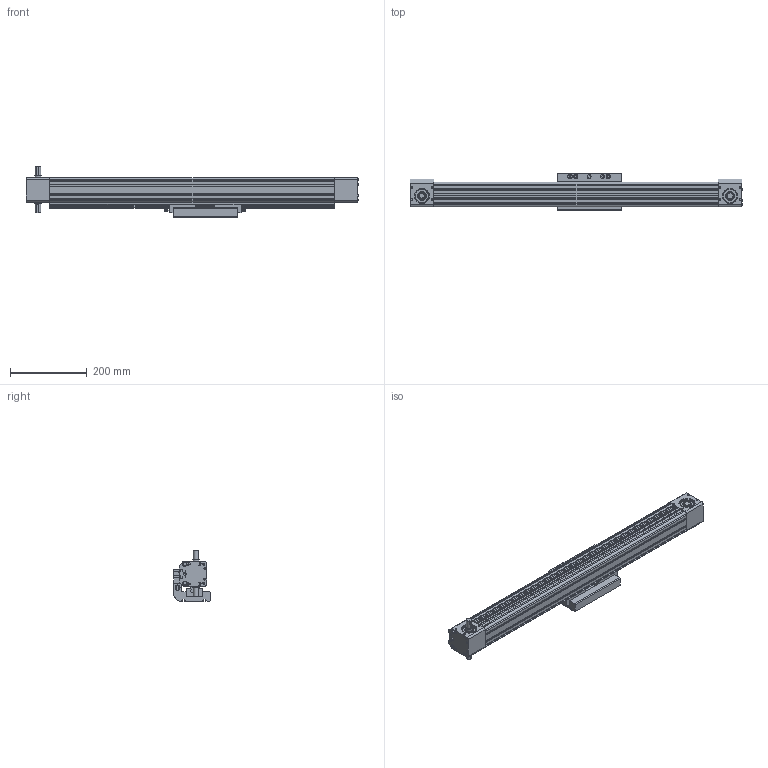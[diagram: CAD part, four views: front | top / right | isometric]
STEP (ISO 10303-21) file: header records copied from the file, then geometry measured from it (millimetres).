
FILE_DESCRIPTION((''),'2;1');
FILE_NAME('TCDH65-S500','2018-02-03T',('lenovo'),(''),'PRO/ENGINEER BY PARAMETRIC TECHNOLOGY CORPORATION, 2010280','PRO/ENGINEER BY PARAMETRIC TECHNOLOGY CORPORATION, 2010280','');
FILE_SCHEMA(('CONFIG_CONTROL_DESIGN'));
Products named in the file (1): TCDH65-S500
Bounding box: 866 x 96.5 x 132.5 mm (x, y, z)
Surface area: 744904.5 mm2 (no closed solid volume)
Topology: 0 solids, 55 shells, 2211 faces, 5895 edges, 3882 vertices
Faces by surface type: plane 1117, cylinder 810, cone 232, torus 52
Entity records: 70209 total; most frequent: CARTESIAN_POINT 13282, DIRECTION 12237, ORIENTED_EDGE 11646, EDGE_CURVE 5895, AXIS2_PLACEMENT_3D 4351, VERTEX_POINT 3882, VECTOR 3535, LINE 3535
